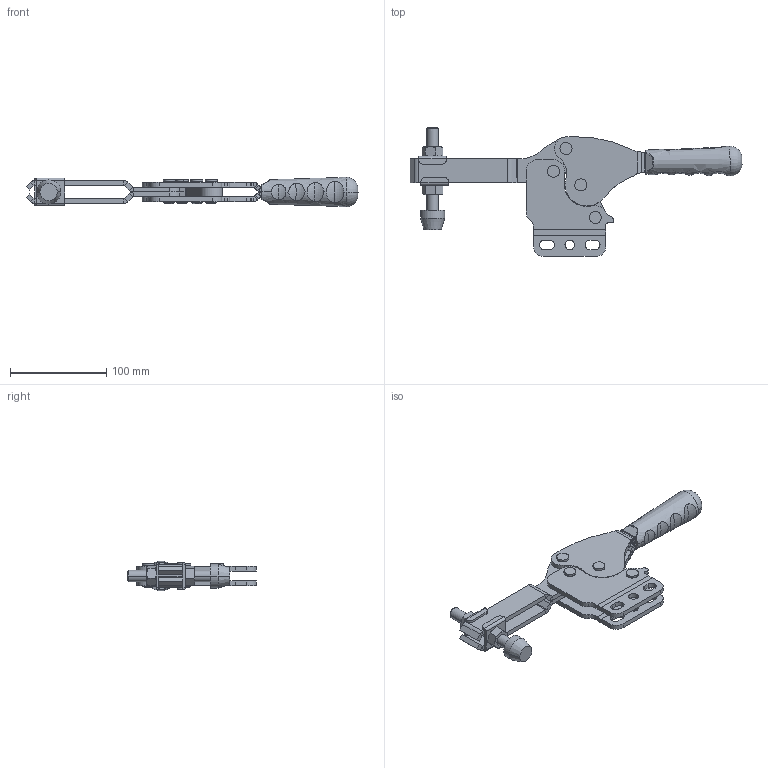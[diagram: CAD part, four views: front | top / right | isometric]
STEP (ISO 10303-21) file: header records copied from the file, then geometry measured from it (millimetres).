
FILE_DESCRIPTION (( 'STEP AP203' ), '1' );
FILE_NAME ('1265_D_MONTAJ.STEP', '2022-04-26T14:13:31', ( '' ), ( '' ), 'SwSTEP 2.0', 'SolidWorks 2020', '' );
FILE_SCHEMA (( 'CONFIG_CONTROL_DESIGN' ));
Length unit declared in the file: millimetre
Products named in the file (14): 1265_D_MONTAJ; 1265 Y-D Gövde; M12_BASKI_GRUBU^1265_Y_D_MONTAJ; 1265_HAREKET_KOLU; Aynalama1265_HAREKET_KOLU; 8x25_PERﾇﾝN; 1265_MAFSAL; C100_Yeni_Tutamak_10x20; Aynalama1265_BASKI_KOLU; M12 Aský; 1265_BASKI_KOLU; M12 Somun; Baský M12; Aynalama1265 Y-D Gövde
Assembly tree (18 placements, depth 3):
  1265_D_MONTAJ
    1265 Y-D Gövde
    1265_BASKI_KOLU
    1265_HAREKET_KOLU
    1265_MAFSAL
    Aynalama1265 Y-D Gövde
    Aynalama1265_BASKI_KOLU
    Aynalama1265_HAREKET_KOLU
    8x25_PERﾇﾝN  x4
    M12_BASKI_GRUBU^1265_Y_D_MONTAJ
      M12 Aský  x2
      Baský M12
      M12 Somun  x2
    C100_Yeni_Tutamak_10x20
Bounding box: 345.07 x 133.86 x 30.82 mm (x, y, z)
Volume: 247379.4 mm3; surface area: 117850.7 mm2
Topology: 17 solids, 17 shells, 743 faces, 1848 edges, 1158 vertices
Faces by surface type: plane 428, cylinder 239, torus 34, cone 26, bspline 16
Entity records: 18937 total; most frequent: CARTESIAN_POINT 4516, DIRECTION 2694, ORIENTED_EDGE 2652, EDGE_CURVE 1326, AXIS2_PLACEMENT_3D 944, VERTEX_POINT 834, VECTOR 806, LINE 806
